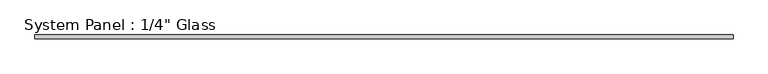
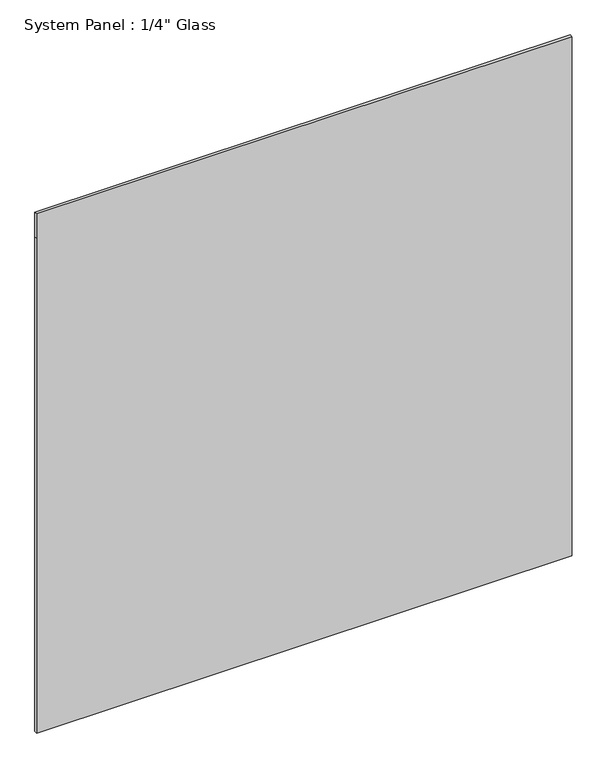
"""IFC4 building model written with IfcOpenShell, lengths in millimetres: plate geometry."""

from ifc_helpers import new_model, si_unit, frame, origin, place, context, project, spatial, polyline, outline, extrude, source, transform, mapped, element, save


def plate_297d9759(model_context):
    return source(origin(), model_context, "Body", "SweptSolid", [
        extrude(outline(polyline([(0.0, -606.4258852), (0.0, 606.4258852), (1184.275, 606.4258852), (1242.5844027, 606.4258852), (1242.5844027, -606.4258852), (1184.275, -606.4258852), (0.0, -606.4258852)])), frame((0.0, -3.175, 0.0), z_axis=(0.0, 1.0, 0.0), x_axis=(0.0, 0.0, 1.0)), (0.0, 0.0, 1.0), 6.35),
    ])


if __name__ == "__main__":
    model = new_model("IFC4")
    model_context = context("Model", 3, world=origin())
    ifc_project = project(units=[si_unit("LENGTHUNIT", "METRE", prefix="MILLI")], contexts=[model_context])
    site = spatial("IfcSite", under=ifc_project)
    building = spatial("IfcBuilding", under=site)
    placement = place(None, origin())
    plate_shape = plate_297d9759(model_context)
    element("IfcPlate", 1, ObjectType="System Panel : 1/4\" Glass", at=placement, inside=building, context=model_context, shape_type="MappedRepresentation", body=[
        mapped(plate_shape, transform((0.0, 0.0, 0.0), x_axis=(1.0, 0.0, 0.0), y_axis=(0.0, 1.0, 0.0), z_axis=(0.0, 0.0, 1.0))),
    ])
    save(model, "model.ifc")
